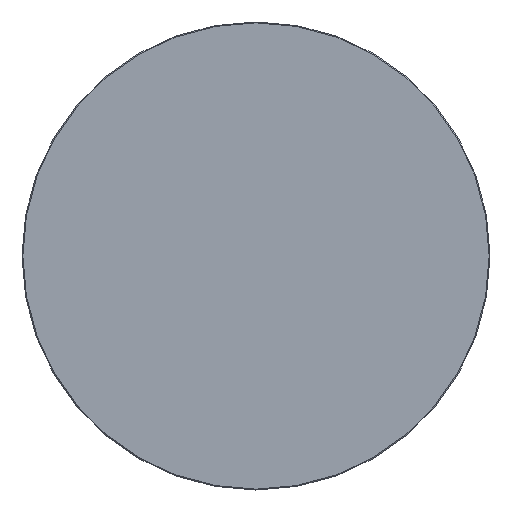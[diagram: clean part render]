
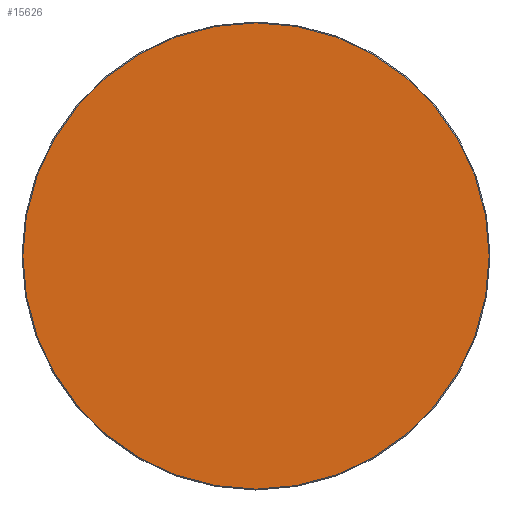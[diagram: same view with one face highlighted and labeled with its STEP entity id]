
A CAD part, top view. The second image highlights one B-rep face of the part: STEP entity #15626.
In plain terms, the highlighted planar face has unit normal (0, 0, 1).
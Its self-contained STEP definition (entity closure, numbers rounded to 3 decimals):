
#15551=CARTESIAN_POINT('',(0.,0.,20.));
#15552=DIRECTION('',(1.,0.,0.));
#15553=DIRECTION('',(0.,0.,1.));
#15554=AXIS2_PLACEMENT_3D('',#15551,#15553,#15552);
#15555=PLANE('',#15554);
#15556=CARTESIAN_POINT('',(-0.5,-398.5,20.));
#15557=VERTEX_POINT('',#15556);
#15558=CARTESIAN_POINT('',(0.5,-398.5,20.));
#15559=VERTEX_POINT('',#15558);
#15560=CARTESIAN_POINT('',(-0.5,-398.5,20.));
#15561=DIRECTION('',(1.,0.,0.));
#15562=VECTOR('',#15561,1.);
#15563=LINE('',#15560,#15562);
#15564=EDGE_CURVE('',#15557,#15559,#15563,.T.);
#15565=ORIENTED_EDGE('E105',*,*,#15564,.T.);
#15566=CARTESIAN_POINT('',(398.5,-0.5,20.));
#15567=VERTEX_POINT('',#15566);
#15568=CARTESIAN_POINT('',(0.5,-0.5,20.));
#15569=DIRECTION('',(0.,-1.,0.));
#15570=DIRECTION('',(0.,0.,1.));
#15571=AXIS2_PLACEMENT_3D('',#15568,#15570,#15569);
#15572=CIRCLE('',#15571,398.);
#15573=EDGE_CURVE('',#15559,#15567,#15572,.T.);
#15574=ORIENTED_EDGE('E107',*,*,#15573,.T.);
#15575=CARTESIAN_POINT('',(398.5,0.5,20.));
#15576=VERTEX_POINT('',#15575);
#15577=CARTESIAN_POINT('',(398.5,-0.5,20.));
#15578=DIRECTION('',(0.,1.,0.));
#15579=VECTOR('',#15578,1.);
#15580=LINE('',#15577,#15579);
#15581=EDGE_CURVE('',#15567,#15576,#15580,.T.);
#15582=ORIENTED_EDGE('E109',*,*,#15581,.T.);
#15583=CARTESIAN_POINT('',(0.5,398.5,20.));
#15584=VERTEX_POINT('',#15583);
#15585=CARTESIAN_POINT('',(0.5,0.5,20.));
#15586=DIRECTION('',(1.,0.,0.));
#15587=DIRECTION('',(0.,0.,1.));
#15588=AXIS2_PLACEMENT_3D('',#15585,#15587,#15586);
#15589=CIRCLE('',#15588,398.);
#15590=EDGE_CURVE('',#15576,#15584,#15589,.T.);
#15591=ORIENTED_EDGE('E111',*,*,#15590,.T.);
#15592=CARTESIAN_POINT('',(-0.5,398.5,20.));
#15593=VERTEX_POINT('',#15592);
#15594=CARTESIAN_POINT('',(0.5,398.5,20.));
#15595=DIRECTION('',(-1.,0.,0.));
#15596=VECTOR('',#15595,1.);
#15597=LINE('',#15594,#15596);
#15598=EDGE_CURVE('',#15584,#15593,#15597,.T.);
#15599=ORIENTED_EDGE('E113',*,*,#15598,.T.);
#15600=CARTESIAN_POINT('',(-398.5,0.5,20.));
#15601=VERTEX_POINT('',#15600);
#15602=CARTESIAN_POINT('',(-0.5,0.5,20.));
#15603=DIRECTION('',(0.,1.,0.));
#15604=DIRECTION('',(0.,0.,1.));
#15605=AXIS2_PLACEMENT_3D('',#15602,#15604,#15603);
#15606=CIRCLE('',#15605,398.);
#15607=EDGE_CURVE('',#15593,#15601,#15606,.T.);
#15608=ORIENTED_EDGE('E115',*,*,#15607,.T.);
#15609=CARTESIAN_POINT('',(-398.5,-0.5,20.));
#15610=VERTEX_POINT('',#15609);
#15611=CARTESIAN_POINT('',(-398.5,0.5,20.));
#15612=DIRECTION('',(0.,-1.,0.));
#15613=VECTOR('',#15612,1.);
#15614=LINE('',#15611,#15613);
#15615=EDGE_CURVE('',#15601,#15610,#15614,.T.);
#15616=ORIENTED_EDGE('E117',*,*,#15615,.T.);
#15617=CARTESIAN_POINT('',(-0.5,-0.5,20.));
#15618=DIRECTION('',(-1.,0.,0.));
#15619=DIRECTION('',(-0.,0.,1.));
#15620=AXIS2_PLACEMENT_3D('',#15617,#15619,#15618);
#15621=CIRCLE('',#15620,398.);
#15622=EDGE_CURVE('',#15610,#15557,#15621,.T.);
#15623=ORIENTED_EDGE('E119',*,*,#15622,.T.);
#15624=EDGE_LOOP('',(#15565,#15574,#15582,#15591,#15599,#15608,#15616,#15623));
#15625=FACE_OUTER_BOUND('',#15624,.T.);
#15626=ADVANCED_FACE('F2',(#15625),#15555,.T.);
